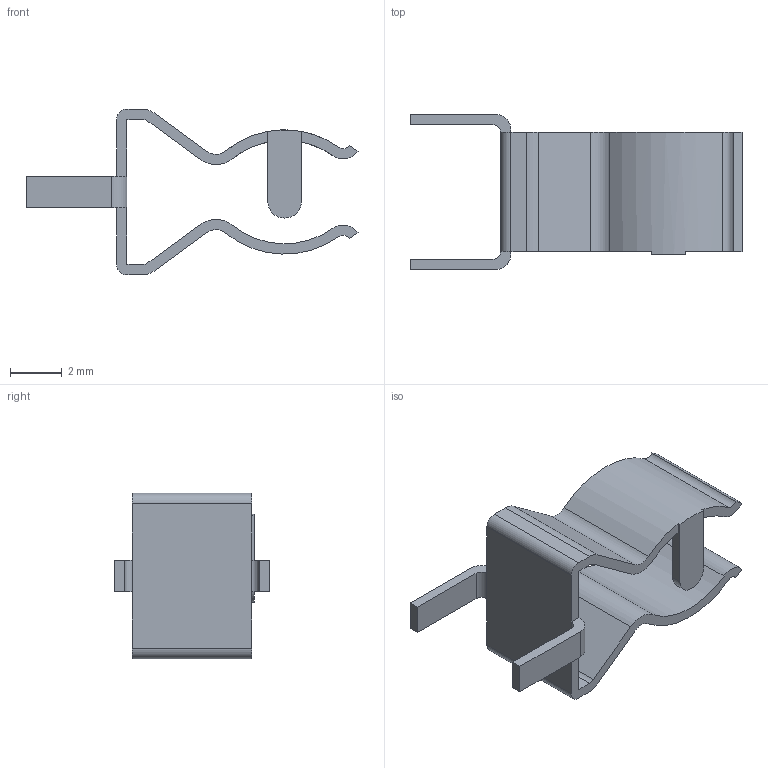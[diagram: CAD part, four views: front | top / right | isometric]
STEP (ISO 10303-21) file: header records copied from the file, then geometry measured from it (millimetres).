
FILE_DESCRIPTION(('FreeCAD Model'),'2;1');
FILE_NAME('Open CASCADE Shape Model','2026-03-19T23:02:44',('Author'),( ''),'Open CASCADE STEP processor 7.8','FreeCAD','Unknown');
FILE_SCHEMA(('AP242_MANAGED_MODEL_BASED_3D_ENGINEERING_MIM_LF. {1 0 10303 442 1 1 4 }'));
Length unit declared in the file: millimetre
Products named in the file (1): Body
Bounding box: 12.83 x 6 x 6.4 mm (x, y, z)
Volume: 52.7 mm3; surface area: 296.3 mm2
Topology: 1 solids, 1 shells, 54 faces, 152 edges, 100 vertices
Faces by surface type: plane 31, cylinder 23
Entity records: 1776 total; most frequent: DIRECTION 312, CARTESIAN_POINT 307, ORIENTED_EDGE 304, EDGE_CURVE 152, AXIS2_PLACEMENT_3D 105, LINE 102, VECTOR 102, VERTEX_POINT 100
